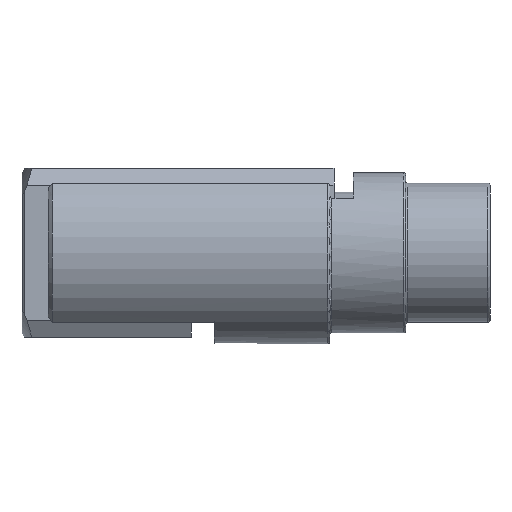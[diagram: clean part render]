
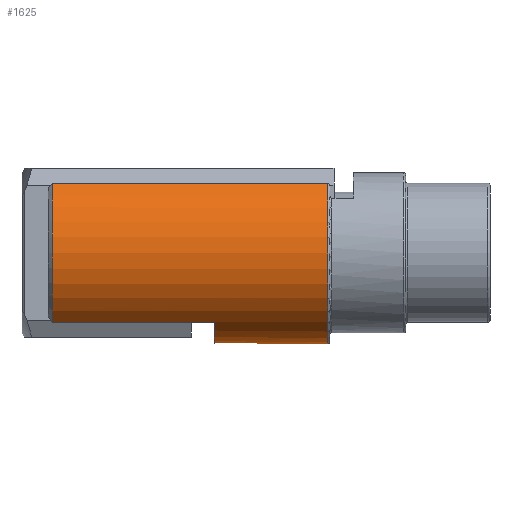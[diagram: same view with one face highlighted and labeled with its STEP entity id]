
A CAD part, left-side view. The second image highlights one B-rep face of the part: STEP entity #1625.
In plain terms, the highlighted cylindrical face has radius 11.1 mm (diameter 22.2 mm), a partial arc.
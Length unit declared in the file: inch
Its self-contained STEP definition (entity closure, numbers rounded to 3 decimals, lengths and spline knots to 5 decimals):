
#171=FACE_OUTER_BOUND('',#264,.T.);
#264=EDGE_LOOP('',(#1394,#1395,#1396,#1397,#1398,#1399,#1400,#1401));
#348=CIRCLE('',#1794,0.437);
#349=CIRCLE('',#1796,0.437);
#350=CIRCLE('',#1797,0.437);
#351=CIRCLE('',#1798,0.437);
#500=LINE('',#3926,#588);
#501=LINE('',#3930,#589);
#502=LINE('',#3934,#590);
#503=LINE('',#3937,#591);
#588=VECTOR('',#2161,0.3937);
#589=VECTOR('',#2164,0.3937);
#590=VECTOR('',#2167,0.3937);
#591=VECTOR('',#2170,0.3937);
#743=VERTEX_POINT('',#3901);
#744=VERTEX_POINT('',#3912);
#745=VERTEX_POINT('',#3925);
#746=VERTEX_POINT('',#3927);
#747=VERTEX_POINT('',#3929);
#748=VERTEX_POINT('',#3931);
#749=VERTEX_POINT('',#3933);
#750=VERTEX_POINT('',#3935);
#971=EDGE_CURVE('',#743,#744,#348,.T.);
#973=EDGE_CURVE('',#743,#745,#500,.T.);
#974=EDGE_CURVE('',#746,#745,#349,.T.);
#975=EDGE_CURVE('',#746,#747,#501,.T.);
#976=EDGE_CURVE('',#747,#748,#350,.T.);
#977=EDGE_CURVE('',#748,#749,#502,.T.);
#978=EDGE_CURVE('',#750,#749,#351,.T.);
#979=EDGE_CURVE('',#750,#744,#503,.T.);
#1394=ORIENTED_EDGE('',*,*,#973,.T.);
#1395=ORIENTED_EDGE('',*,*,#974,.F.);
#1396=ORIENTED_EDGE('',*,*,#975,.T.);
#1397=ORIENTED_EDGE('',*,*,#976,.T.);
#1398=ORIENTED_EDGE('',*,*,#977,.T.);
#1399=ORIENTED_EDGE('',*,*,#978,.F.);
#1400=ORIENTED_EDGE('',*,*,#979,.T.);
#1401=ORIENTED_EDGE('',*,*,#971,.F.);
#1557=CYLINDRICAL_SURFACE('',#1795,0.437);
#1625=ADVANCED_FACE('',(#171),#1557,.T.);
#1794=AXIS2_PLACEMENT_3D('',#3913,#2157,#2158);
#1795=AXIS2_PLACEMENT_3D('',#3924,#2159,#2160);
#1796=AXIS2_PLACEMENT_3D('',#3928,#2162,#2163);
#1797=AXIS2_PLACEMENT_3D('',#3932,#2165,#2166);
#1798=AXIS2_PLACEMENT_3D('',#3936,#2168,#2169);
#2157=DIRECTION('center_axis',(0.,-1.,0.));
#2158=DIRECTION('ref_axis',(0.,0.,1.));
#2159=DIRECTION('center_axis',(0.,-1.,0.));
#2160=DIRECTION('ref_axis',(0.,0.,-1.));
#2161=DIRECTION('',(0.,1.,0.));
#2162=DIRECTION('center_axis',(0.,1.,0.));
#2163=DIRECTION('ref_axis',(0.,0.,1.));
#2164=DIRECTION('',(0.,-1.,0.));
#2165=DIRECTION('center_axis',(0.,-1.,0.));
#2166=DIRECTION('ref_axis',(0.,0.,-1.));
#2167=DIRECTION('',(0.,1.,0.));
#2168=DIRECTION('center_axis',(0.,1.,0.));
#2169=DIRECTION('ref_axis',(0.,0.,1.));
#2170=DIRECTION('',(0.,-1.,0.));
#3901=CARTESIAN_POINT('',(-0.282,0.78,0.33383));
#3912=CARTESIAN_POINT('',(0.282,0.78,0.33383));
#3913=CARTESIAN_POINT('Origin',(0.,0.78,0.));
#3924=CARTESIAN_POINT('Origin',(0.,1.4475,0.));
#3925=CARTESIAN_POINT('',(-0.282,2.105,0.33383));
#3926=CARTESIAN_POINT('',(-0.282,1.4475,0.33383));
#3927=CARTESIAN_POINT('',(-0.282,2.105,-0.33383));
#3928=CARTESIAN_POINT('Origin',(0.,2.105,0.));
#3929=CARTESIAN_POINT('',(-0.282,1.325,-0.33383));
#3930=CARTESIAN_POINT('',(-0.282,1.4475,-0.33383));
#3931=CARTESIAN_POINT('',(0.282,1.325,-0.33383));
#3932=CARTESIAN_POINT('Origin',(0.,1.325,0.));
#3933=CARTESIAN_POINT('',(0.282,2.105,-0.33383));
#3934=CARTESIAN_POINT('',(0.282,1.4475,-0.33383));
#3935=CARTESIAN_POINT('',(0.282,2.105,0.33383));
#3936=CARTESIAN_POINT('Origin',(0.,2.105,0.));
#3937=CARTESIAN_POINT('',(0.282,1.4475,0.33383));
